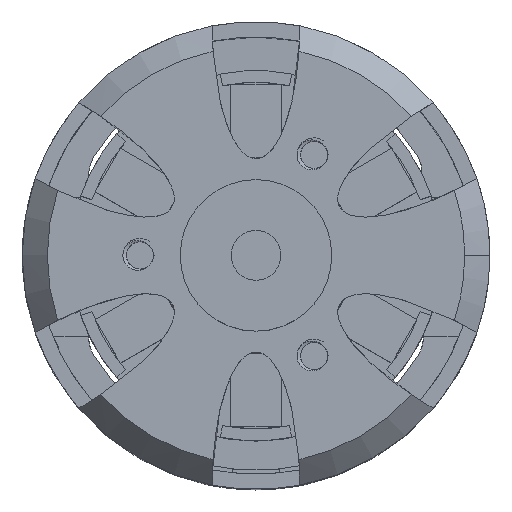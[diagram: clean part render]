
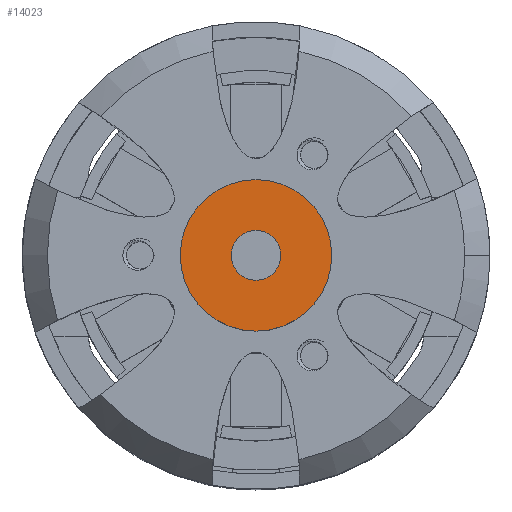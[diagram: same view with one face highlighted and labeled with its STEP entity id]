
A CAD part, top view. The second image highlights one B-rep face of the part: STEP entity #14023.
In plain terms, the highlighted planar face has unit normal (0, 0, 1).
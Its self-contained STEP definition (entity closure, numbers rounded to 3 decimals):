
#4506 = CYLINDRICAL_SURFACE('',#4507,4.5);
#4507 = AXIS2_PLACEMENT_3D('',#4508,#4509,#4510);
#4508 = CARTESIAN_POINT('',(0.,0.,0.));
#4509 = DIRECTION('',(0.,0.,1.));
#4510 = DIRECTION('',(1.,0.,0.));
#9938 = VERTEX_POINT('',#9939);
#9939 = CARTESIAN_POINT('',(4.5,0.,0.));
#9962 = EDGE_CURVE('',#9938,#9938,#9963,.T.);
#9963 = SURFACE_CURVE('',#9964,(#9969,#9976),.PCURVE_S1.);
#9964 = CIRCLE('',#9965,4.5);
#9965 = AXIS2_PLACEMENT_3D('',#9966,#9967,#9968);
#9966 = CARTESIAN_POINT('',(0.,0.,0.));
#9967 = DIRECTION('',(0.,0.,1.));
#9968 = DIRECTION('',(1.,0.,0.));
#9969 = PCURVE('',#4506,#9970);
#9970 = DEFINITIONAL_REPRESENTATION('',(#9971),#9975);
#9971 = LINE('',#9972,#9973);
#9972 = CARTESIAN_POINT('',(0.,0.));
#9973 = VECTOR('',#9974,1.);
#9974 = DIRECTION('',(1.,0.));
#9975 = ( GEOMETRIC_REPRESENTATION_CONTEXT(2) 
PARAMETRIC_REPRESENTATION_CONTEXT() REPRESENTATION_CONTEXT('2D SPACE',''
  ) );
#9976 = PCURVE('',#9977,#9982);
#9977 = PLANE('',#9978);
#9978 = AXIS2_PLACEMENT_3D('',#9979,#9980,#9981);
#9979 = CARTESIAN_POINT('',(0.,0.,0.));
#9980 = DIRECTION('',(0.,0.,1.));
#9981 = DIRECTION('',(1.,0.,0.));
#9982 = DEFINITIONAL_REPRESENTATION('',(#9983),#9987);
#9983 = CIRCLE('',#9984,4.5);
#9984 = AXIS2_PLACEMENT_2D('',#9985,#9986);
#9985 = CARTESIAN_POINT('',(0.,0.));
#9986 = DIRECTION('',(1.,0.));
#9987 = ( GEOMETRIC_REPRESENTATION_CONTEXT(2) 
PARAMETRIC_REPRESENTATION_CONTEXT() REPRESENTATION_CONTEXT('2D SPACE',''
  ) );
#14023 = ADVANCED_FACE('',(#14024),#9977,.T.);
#14024 = FACE_BOUND('',#14025,.T.);
#14025 = EDGE_LOOP('',(#14026));
#14026 = ORIENTED_EDGE('',*,*,#9962,.T.);
